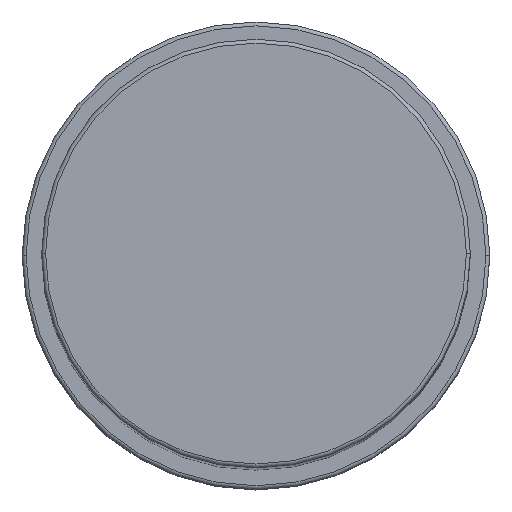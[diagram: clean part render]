
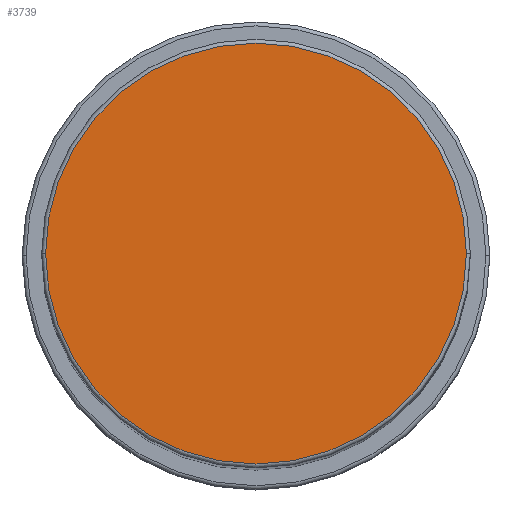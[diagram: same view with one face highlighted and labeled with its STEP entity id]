
A CAD part, top view. The second image highlights one B-rep face of the part: STEP entity #3739.
In plain terms, the highlighted planar face has unit normal (0, 0, 1).
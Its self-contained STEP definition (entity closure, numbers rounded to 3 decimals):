
#110 = FACE_OUTER_BOUND ( 'NONE', #2690, .T. ) ;
#113 = EDGE_CURVE ( 'NONE', #4590, #1593, #3677, .T. ) ;
#555 = AXIS2_PLACEMENT_3D ( 'NONE', #1375, #569, #4806 ) ;
#569 = DIRECTION ( 'NONE',  ( 0., 0., 1. ) ) ;
#637 = CARTESIAN_POINT ( 'NONE',  ( 0., 0., 178. ) ) ;
#653 = DIRECTION ( 'NONE',  ( 1., 0., 0. ) ) ;
#717 = AXIS2_PLACEMENT_3D ( 'NONE', #3156, #2022, #1979 ) ;
#1375 = CARTESIAN_POINT ( 'NONE',  ( 0., 0., 178. ) ) ;
#1404 = DIRECTION ( 'NONE',  ( 0., 0., 1. ) ) ;
#1592 = CIRCLE ( 'NONE', #3034, 27. ) ;
#1593 = VERTEX_POINT ( 'NONE', #3041 ) ;
#1704 = ORIENTED_EDGE ( 'NONE', *, *, #113, .T. ) ;
#1979 = DIRECTION ( 'NONE',  ( 1., 0., 0. ) ) ;
#2022 = DIRECTION ( 'NONE',  ( 0., 0., 1. ) ) ;
#2134 = ORIENTED_EDGE ( 'NONE', *, *, #4462, .T. ) ;
#2690 = EDGE_LOOP ( 'NONE', ( #2134, #1704 ) ) ;
#2730 = PLANE ( 'NONE',  #717 ) ;
#3034 = AXIS2_PLACEMENT_3D ( 'NONE', #637, #1404, #653 ) ;
#3041 = CARTESIAN_POINT ( 'NONE',  ( 27., 0., 178. ) ) ;
#3156 = CARTESIAN_POINT ( 'NONE',  ( 0., 0., 178. ) ) ;
#3534 = CARTESIAN_POINT ( 'NONE',  ( -27., 0., 178. ) ) ;
#3677 = CIRCLE ( 'NONE', #555, 27. ) ;
#3739 = ADVANCED_FACE ( 'NONE', ( #110 ), #2730, .T. ) ;
#4462 = EDGE_CURVE ( 'NONE', #1593, #4590, #1592, .T. ) ;
#4590 = VERTEX_POINT ( 'NONE', #3534 ) ;
#4806 = DIRECTION ( 'NONE',  ( 1., 0., 0. ) ) ;
